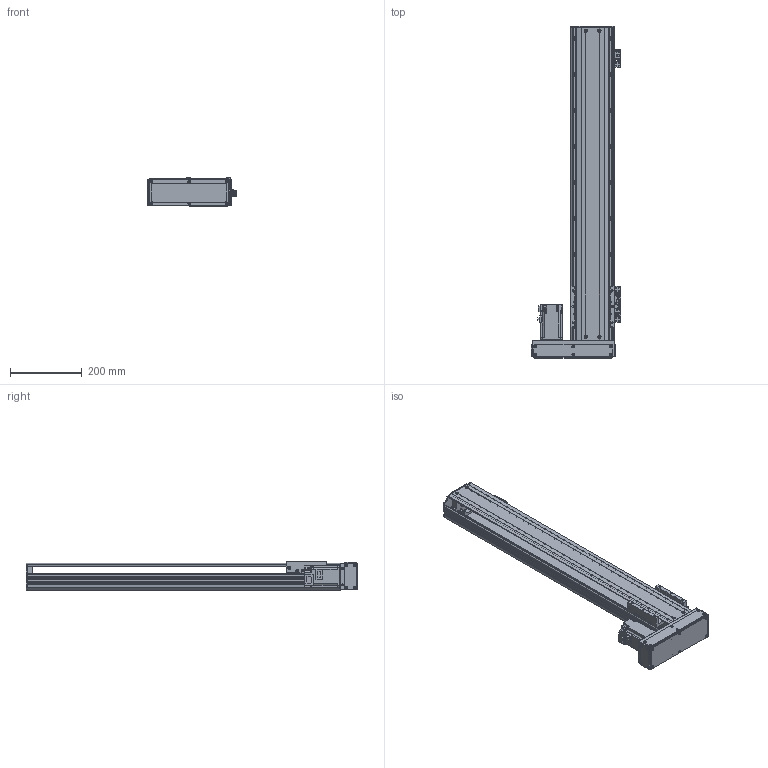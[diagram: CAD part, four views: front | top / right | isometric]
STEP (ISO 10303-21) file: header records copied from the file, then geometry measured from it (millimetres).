
FILE_DESCRIPTION(/* description */ ('MANUFACTURE'),/* implementation_level */ '2;1');
FILE_NAME(/* name */ '\\192.168.0.160\disk1\HAN SHIN Master\B-설계부문\C-표준\B-2024년\BC02-표준도면\+로봇 개선표준도면\홈페이지 표준 도면\홈페이지 최종 작업 폴더\3D\HR\HR120\HR120병렬\좌병렬\HR120-L40-N-0700-R10.stp',/* time_stamp */ '2025-01-20T17:46:02+09:00',/* author */ ('user'),/* organization */ (''),/* preprocessor_version */ 'ST-DEVELOPER v18.1',/* originating_system */ 'Autodesk Inventor 2022',/* authorisation */ 'LIP');
FILE_SCHEMA (('CONFIG_CONTROL_DESIGN'));
Products named in the file (19): HG120-L40-N-0500-R10; HR120 S BASE; HR(HG) 120,130 FRONT BLOCK; HR(HG) 120,130 FRONT BLOCK_1; HR120 FRONT COVER; HG5UPCOV003; HR120 SENSOR DOG; HG120 TABLE-N; HR120 STOPPER; HR120 LR MOTOR PLATE (400W)-사출; MOTOR PLATE - 200W; hg-kr43_; 화살표; HR120 LR BELT COVER; HR160 ACRYL COVER - 1; HR160 ACRYL COVER - 1_1; HR160 ACRYL COVER - 1_2; SENSOR BRK(EE-SX674A); EE_SX674A
Assembly tree (24 placements, depth 2):
  HG120-L40-N-0500-R10
    HR120 S BASE
    HR(HG) 120,130 FRONT BLOCK
    HR(HG) 120,130 FRONT BLOCK_1
    HR120 FRONT COVER
    SENSOR BRK(EE-SX674A)  x3
    HG5UPCOV003
    HR120 SENSOR DOG
    HG120 TABLE-N
    EE_SX674A  x3
    HR120 STOPPER
    HR120 LR MOTOR PLATE (400W)-사출
    MOTOR PLATE - 200W
    hg-kr43_
    화살표  x2
    HR120 LR BELT COVER
    HR160 ACRYL COVER - 1
    HR160 ACRYL COVER - 1_1
    HR160 ACRYL COVER - 1_2  x2
Bounding box: 250 x 923 x 80 mm (x, y, z)
Volume: 2667658.5 mm3; surface area: 1097502.6 mm2
Topology: 24 solids, 24 shells, 3097 faces, 8880 edges, 5868 vertices
Faces by surface type: plane 2211, cylinder 742, cone 144
Full cylindrical faces by diameter (mm): 2.459 x50, 3 x4, 3.242 x48, 3.4 x20, 3.5 x6, 4.134 x44, 4.5 x56, 4.917 x6, 5 x26, 5.5 x33, 5.8 x4, 5.9 x8, 6 x4, 6.6 x2, 7 x4, 7.5 x16, 8 x4, 9 x6, 9.5 x21, 14 x1, 17 x1, 20 x1, 22 x1, 24 x1, 28 x1, 32 x2, 33.7 x1, 50 x2
Entity records: 98887 total; most frequent: CARTESIAN_POINT 20065, ORIENTED_EDGE 16512, DIRECTION 15288, EDGE_CURVE 8256, LINE 6558, VECTOR 6558, VERTEX_POINT 5520, AXIS2_PLACEMENT_3D 4365
